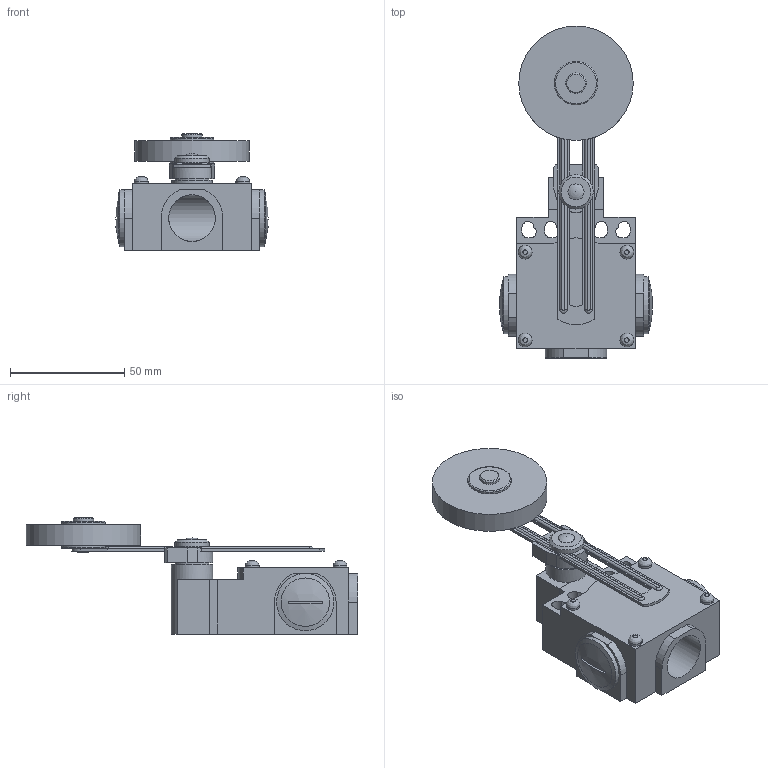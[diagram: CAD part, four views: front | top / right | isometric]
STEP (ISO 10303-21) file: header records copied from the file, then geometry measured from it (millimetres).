
FILE_DESCRIPTION((''),'2;1');
FILE_NAME('D:\Documenti_D\Corrispondenza\Comepi\Catalogo da fare\Modelli Nov 2011\DM e CM\STEP\DM1-F52.iam.step','2011-11-17T12:01:06',(''),(''),'Autodesk Inventor 2010','Autodesk Inventor 2010','');
FILE_SCHEMA(('AUTOMOTIVE_DESIGN { 1 0 10303 214 1 1 1 1 }'));
Length unit declared in the file: millimetre
Products named in the file (8): DM1-F52; DM1; tappo; T52.iam; T52_1; T52_2; T52_3
Assembly tree (8 placements, depth 3):
  DM1-F52
    DM1
      DM1
      tappo  x2
    T52.iam
      T52_1
      T52_2
      T52_3
Bounding box: 66.83 x 145 x 51.05 mm (x, y, z)
Volume: 102258.3 mm3; surface area: 34716.1 mm2
Topology: 7 solids, 7 shells, 161 faces, 387 edges, 255 vertices
Faces by surface type: plane 96, cylinder 46, bspline 8, cone 5, sphere 3, torus 3
Full cylindrical faces by diameter (mm): 6 x6, 7 x1, 9 x1, 15 x2, 18 x1, 19 x2, 20.4 x2, 25 x2, 50 x1
Entity records: 4937 total; most frequent: CARTESIAN_POINT 1165, DIRECTION 770, ORIENTED_EDGE 664, EDGE_CURVE 332, AXIS2_PLACEMENT_3D 280, VERTEX_POINT 235, VECTOR 210, LINE 210
